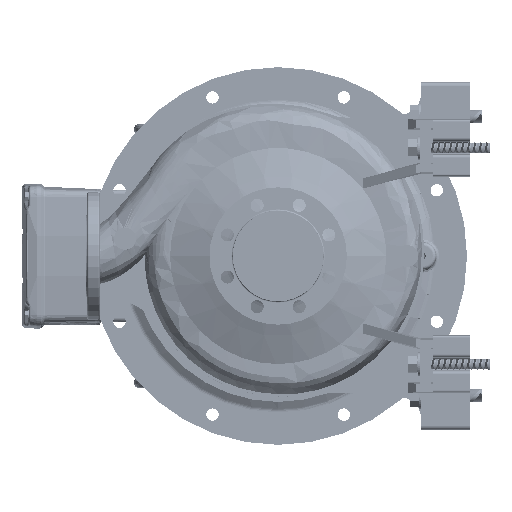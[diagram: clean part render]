
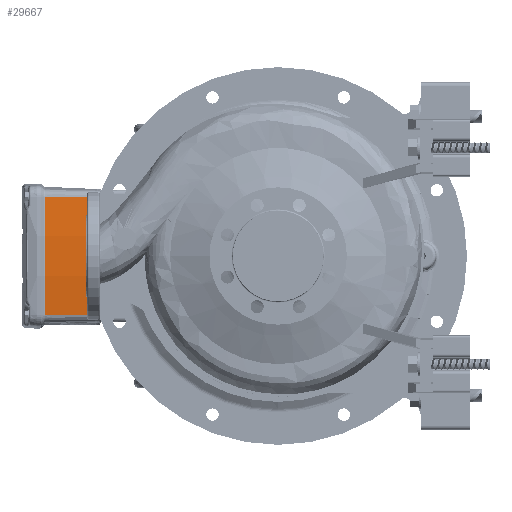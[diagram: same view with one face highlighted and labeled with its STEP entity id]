
A CAD part, left-side view. The second image highlights one B-rep face of the part: STEP entity #29667.
In plain terms, the highlighted conical face has half-angle 1 degrees and reference radius 832 mm.
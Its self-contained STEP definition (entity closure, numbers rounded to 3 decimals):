
#5460 = ORIENTED_EDGE ( 'NONE', *, *, #9281, .T. ) ;
#7446 = ORIENTED_EDGE ( 'NONE', *, *, #87680, .F. ) ;
#8739 = DIRECTION ( 'NONE',  ( -0.002, 1., 0.017 ) ) ;
#9281 = EDGE_CURVE ( 'NONE', #72056, #157170, #26925, .T. ) ;
#14910 = DIRECTION ( 'NONE',  ( 0., 1., 0. ) ) ;
#25673 = CARTESIAN_POINT ( 'NONE',  ( -85.378, 263.878, 114.079 ) ) ;
#26027 = LINE ( 'NONE', #95732, #99419 ) ;
#26925 = CIRCLE ( 'NONE', #73869, 830.479 ) ;
#29667 = ADVANCED_FACE ( 'NONE', ( #81774 ), #135535, .T. ) ;
#50892 = EDGE_LOOP ( 'NONE', ( #76947, #168910, #7446, #5460 ) ) ;
#53545 = DIRECTION ( 'NONE',  ( 0.002, 1., 0.017 ) ) ;
#55156 = CARTESIAN_POINT ( 'NONE',  ( 0., 351., -712. ) ) ;
#56793 = DIRECTION ( 'NONE',  ( -1., 0., 0. ) ) ;
#57115 = DIRECTION ( 'NONE',  ( -1., 0., 0. ) ) ;
#57705 = DIRECTION ( 'NONE',  ( 0., -1., 0. ) ) ;
#57906 = DIRECTION ( 'NONE',  ( 0., 1., 0. ) ) ;
#58791 = CARTESIAN_POINT ( 'NONE',  ( -85.514, 339.235, 115.387 ) ) ;
#63560 = VECTOR ( 'NONE', #8739, 1000. ) ;
#66930 = CARTESIAN_POINT ( 'NONE',  ( 0., 339.235, -712. ) ) ;
#70891 = CARTESIAN_POINT ( 'NONE',  ( 0., 263.878, -712. ) ) ;
#72056 = VERTEX_POINT ( 'NONE', #25673 ) ;
#73869 = AXIS2_PLACEMENT_3D ( 'NONE', #70891, #14910, #57115 ) ;
#76947 = ORIENTED_EDGE ( 'NONE', *, *, #151733, .T. ) ;
#81774 = FACE_OUTER_BOUND ( 'NONE', #50892, .T. ) ;
#85781 = CIRCLE ( 'NONE', #117998, 831.795 ) ;
#87680 = EDGE_CURVE ( 'NONE', #72056, #159738, #95845, .T. ) ;
#91510 = AXIS2_PLACEMENT_3D ( 'NONE', #55156, #57906, #124883 ) ;
#95732 = CARTESIAN_POINT ( 'NONE',  ( 85.535, 351., 115.592 ) ) ;
#95845 = LINE ( 'NONE', #109613, #63560 ) ;
#99419 = VECTOR ( 'NONE', #53545, 1000. ) ;
#107102 = EDGE_CURVE ( 'NONE', #155571, #159738, #85781, .T. ) ;
#109613 = CARTESIAN_POINT ( 'NONE',  ( -85.535, 351., 115.592 ) ) ;
#112712 = CARTESIAN_POINT ( 'NONE',  ( 85.378, 263.878, 114.079 ) ) ;
#117998 = AXIS2_PLACEMENT_3D ( 'NONE', #66930, #57705, #56793 ) ;
#124883 = DIRECTION ( 'NONE',  ( -1., 0., 0. ) ) ;
#135535 = CONICAL_SURFACE ( 'NONE', #91510, 832., 0.017 ) ;
#149909 = CARTESIAN_POINT ( 'NONE',  ( 85.514, 339.235, 115.387 ) ) ;
#151733 = EDGE_CURVE ( 'NONE', #157170, #155571, #26027, .T. ) ;
#155571 = VERTEX_POINT ( 'NONE', #149909 ) ;
#157170 = VERTEX_POINT ( 'NONE', #112712 ) ;
#159738 = VERTEX_POINT ( 'NONE', #58791 ) ;
#168910 = ORIENTED_EDGE ( 'NONE', *, *, #107102, .T. ) ;
